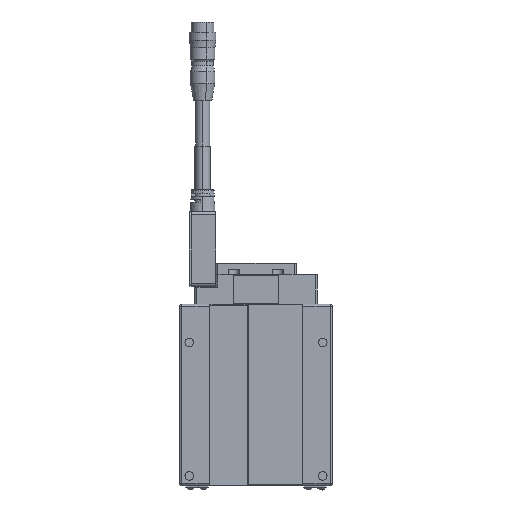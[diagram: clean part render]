
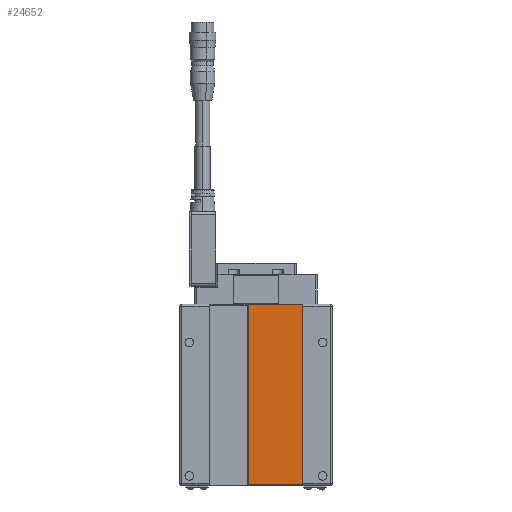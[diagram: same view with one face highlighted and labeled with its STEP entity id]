
A CAD part, front view. The second image highlights one B-rep face of the part: STEP entity #24652.
In plain terms, the highlighted planar face has unit normal (0, -1, 0).
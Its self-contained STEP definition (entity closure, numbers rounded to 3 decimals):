
#137 = EDGE_CURVE ( 'NONE', #46864, #39176, #50376, .T. ) ;
#1081 = VERTEX_POINT ( 'NONE', #37381 ) ;
#2200 = DIRECTION ( 'NONE',  ( 0., 0., 1. ) ) ;
#4909 = AXIS2_PLACEMENT_3D ( 'NONE', #5629, #6226, #25239 ) ;
#5427 = EDGE_LOOP ( 'NONE', ( #48292, #10014, #6962, #23677 ) ) ;
#5629 = CARTESIAN_POINT ( 'NONE',  ( 24.5, 0.3, 95. ) ) ;
#6226 = DIRECTION ( 'NONE',  ( 0., 1., 0. ) ) ;
#6962 = ORIENTED_EDGE ( 'NONE', *, *, #51405, .F. ) ;
#8587 = CARTESIAN_POINT ( 'NONE',  ( 24.5, 0.3, 95. ) ) ;
#9056 = EDGE_CURVE ( 'NONE', #46864, #1081, #49534, .T. ) ;
#9479 = EDGE_CURVE ( 'NONE', #58251, #1081, #18203, .T. ) ;
#10014 = ORIENTED_EDGE ( 'NONE', *, *, #137, .T. ) ;
#13591 = VECTOR ( 'NONE', #32291, 1000. ) ;
#16510 = CARTESIAN_POINT ( 'NONE',  ( -4.1, 0.3, 0. ) ) ;
#17412 = VECTOR ( 'NONE', #45961, 1000. ) ;
#18203 = LINE ( 'NONE', #31908, #17412 ) ;
#21483 = CARTESIAN_POINT ( 'NONE',  ( -4.1, 0.3, 0.286 ) ) ;
#23677 = ORIENTED_EDGE ( 'NONE', *, *, #9479, .T. ) ;
#24652 = ADVANCED_FACE ( 'NONE', ( #44577 ), #29914, .F. ) ;
#25239 = DIRECTION ( 'NONE',  ( 0., 0., 1. ) ) ;
#25701 = CARTESIAN_POINT ( 'NONE',  ( 24.5, 0.3, 94.714 ) ) ;
#27002 = CARTESIAN_POINT ( 'NONE',  ( -4.1, 0.3, 0.286 ) ) ;
#27299 = LINE ( 'NONE', #8587, #13591 ) ;
#28306 = VECTOR ( 'NONE', #2200, 1000. ) ;
#29914 = PLANE ( 'NONE',  #4909 ) ;
#31908 = CARTESIAN_POINT ( 'NONE',  ( 24.5, 0.3, 94.714 ) ) ;
#32291 = DIRECTION ( 'NONE',  ( 0., 0., -1. ) ) ;
#37381 = CARTESIAN_POINT ( 'NONE',  ( -4.1, 0.3, 94.714 ) ) ;
#39176 = VERTEX_POINT ( 'NONE', #40591 ) ;
#40591 = CARTESIAN_POINT ( 'NONE',  ( 24.5, 0.3, 0.286 ) ) ;
#41839 = VECTOR ( 'NONE', #46022, 1000. ) ;
#44577 = FACE_OUTER_BOUND ( 'NONE', #5427, .T. ) ;
#45961 = DIRECTION ( 'NONE',  ( -1., 0., 0. ) ) ;
#46022 = DIRECTION ( 'NONE',  ( 1., 0., 0. ) ) ;
#46864 = VERTEX_POINT ( 'NONE', #21483 ) ;
#48292 = ORIENTED_EDGE ( 'NONE', *, *, #9056, .F. ) ;
#49534 = LINE ( 'NONE', #16510, #28306 ) ;
#50376 = LINE ( 'NONE', #27002, #41839 ) ;
#51405 = EDGE_CURVE ( 'NONE', #58251, #39176, #27299, .T. ) ;
#58251 = VERTEX_POINT ( 'NONE', #25701 ) ;
